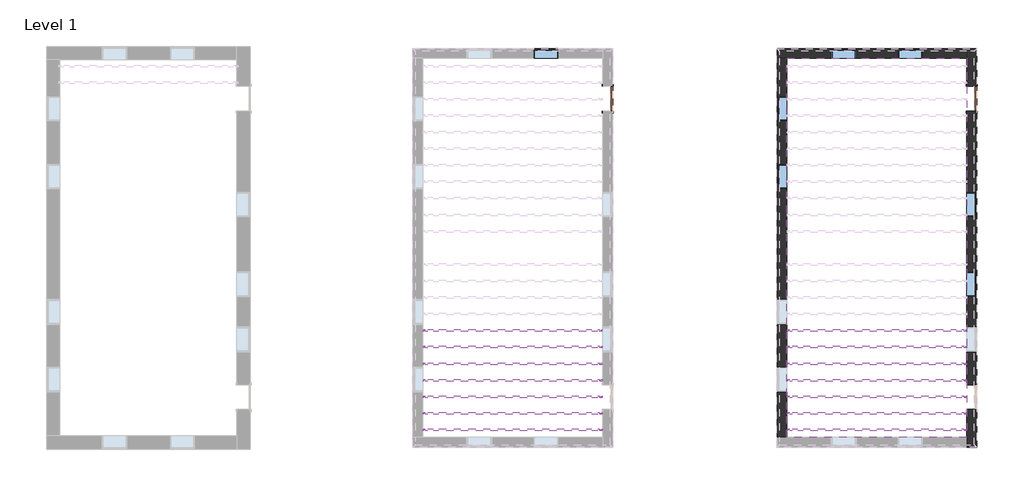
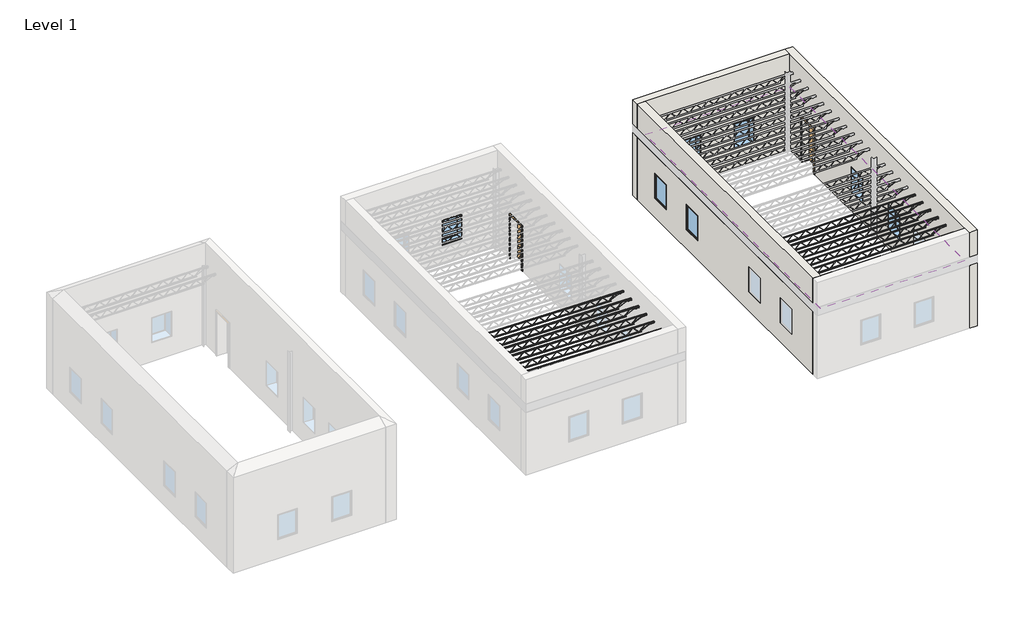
# One storey, part 2 of 3: 14 beams, 8 columns, 7 windows, 3 walls, 2 doors, 1 covering.
"""IFC4 building model written with IfcOpenShell, lengths in millimetres."""

from ifc_helpers import new_model, si_unit, point, frame, frame_2d, origin, origin_with_axes, place, context, project, spatial, polyline, circle_curve, trimmed, segment, composite_curve, outline, extrude, faceted_brep, transform, mapped, element, save
from components import k_series_bar_joist_rod_web_12k1_aec08bc9, k_series_bar_joist_rod_web_12k1_dd27f140, door_5f36cde9, window_a227ee85, window_0fe20cff

model = new_model("IFC4")

# Units and contexts
model_context = context("Model", 3, world=origin())
ifc_project = project(units=[si_unit("LENGTHUNIT", "METRE", prefix="MILLI")], contexts=[model_context])

# Site, building, storey
site = spatial("IfcSite", under=ifc_project)
building = spatial("IfcBuilding", under=site)
storey = spatial("IfcBuildingStorey", under=building, Name="Level 1", Elevation=0.0)

# Beams
placement = place(None, origin())
k_series_bar_joist_rod_web_12k1_shape = k_series_bar_joist_rod_web_12k1_aec08bc9(model_context)
element("IfcBeam", 1, ObjectType="K-Series Bar Joist-Rod Web : 12K1", at=placement, inside=storey, context=model_context, shape_type="MappedRepresentation", body=[
    mapped(k_series_bar_joist_rod_web_12k1_shape, transform((28873.0055911, -3709.2648477, 3764.3), x_axis=(1.0, 0.0, 0.0), y_axis=(0.0, 1.0, 0.0), z_axis=(0.0, 0.0, 1.0))),
])
element("IfcBeam", 2, ObjectType="K-Series Bar Joist-Rod Web : 12K1", at=placement, inside=storey, context=model_context, shape_type="MappedRepresentation", body=[
    mapped(k_series_bar_joist_rod_web_12k1_shape, transform((28873.0055911, -3099.6648477, 3764.3), x_axis=(1.0, 0.0, 0.0), y_axis=(0.0, 1.0, 0.0), z_axis=(0.0, 0.0, 1.0))),
])
element("IfcBeam", 3, ObjectType="K-Series Bar Joist-Rod Web : 12K1", at=placement, inside=storey, context=model_context, shape_type="MappedRepresentation", body=[
    mapped(k_series_bar_joist_rod_web_12k1_shape, transform((28873.0055911, -2490.0648477, 3764.3), x_axis=(1.0, 0.0, 0.0), y_axis=(0.0, 1.0, 0.0), z_axis=(0.0, 0.0, 1.0))),
])
element("IfcBeam", 4, ObjectType="K-Series Bar Joist-Rod Web : 12K1", at=placement, inside=storey, context=model_context, shape_type="MappedRepresentation", body=[
    mapped(k_series_bar_joist_rod_web_12k1_shape, transform((28873.0055911, -1880.4648477, 3764.3), x_axis=(1.0, 0.0, 0.0), y_axis=(0.0, 1.0, 0.0), z_axis=(0.0, 0.0, 1.0))),
])
element("IfcBeam", 5, ObjectType="K-Series Bar Joist-Rod Web : 12K1", at=placement, inside=storey, context=model_context, shape_type="MappedRepresentation", body=[
    mapped(k_series_bar_joist_rod_web_12k1_shape, transform((28873.0055911, -1270.8648477, 3764.3), x_axis=(1.0, 0.0, 0.0), y_axis=(0.0, 1.0, 0.0), z_axis=(0.0, 0.0, 1.0))),
])
element("IfcBeam", 6, ObjectType="K-Series Bar Joist-Rod Web : 12K1", at=placement, inside=storey, context=model_context, shape_type="MappedRepresentation", body=[
    mapped(k_series_bar_joist_rod_web_12k1_shape, transform((28873.0055911, -661.2648477, 3764.3), x_axis=(1.0, 0.0, 0.0), y_axis=(0.0, 1.0, 0.0), z_axis=(0.0, 0.0, 1.0))),
])
element("IfcBeam", 7, ObjectType="K-Series Bar Joist-Rod Web : 12K1", at=placement, inside=storey, context=model_context, shape_type="MappedRepresentation", body=[
    mapped(k_series_bar_joist_rod_web_12k1_shape, transform((28873.0055911, -51.6648477, 3764.3), x_axis=(1.0, 0.0, 0.0), y_axis=(0.0, 1.0, 0.0), z_axis=(0.0, 0.0, 1.0))),
])
k_series_bar_joist_rod_web_12k1_2_shape = k_series_bar_joist_rod_web_12k1_dd27f140(model_context)
element("IfcBeam", 8, ObjectType="K-Series Bar Joist-Rod Web : 12K1", at=placement, inside=storey, context=model_context, shape_type="MappedRepresentation", body=[
    mapped(k_series_bar_joist_rod_web_12k1_2_shape, transform((15460.0559301, -3709.2648477, 3827.8172194), x_axis=(0.9998063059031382, 0.0, -0.019681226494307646), y_axis=(0.0, 1.0, 0.0), z_axis=(0.019681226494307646, 0.0, 0.9998063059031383))),
])
element("IfcBeam", 9, ObjectType="K-Series Bar Joist-Rod Web : 12K1", at=placement, inside=storey, context=model_context, shape_type="MappedRepresentation", body=[
    mapped(k_series_bar_joist_rod_web_12k1_2_shape, transform((15460.0559301, -3099.6648477, 3827.8172194), x_axis=(0.9998063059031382, 0.0, -0.019681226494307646), y_axis=(0.0, 1.0, 0.0), z_axis=(0.019681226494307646, 0.0, 0.9998063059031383))),
])
element("IfcBeam", 10, ObjectType="K-Series Bar Joist-Rod Web : 12K1", at=placement, inside=storey, context=model_context, shape_type="MappedRepresentation", body=[
    mapped(k_series_bar_joist_rod_web_12k1_2_shape, transform((15460.0559301, -2490.0648477, 3827.8172194), x_axis=(0.9998063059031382, 0.0, -0.019681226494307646), y_axis=(0.0, 1.0, 0.0), z_axis=(0.019681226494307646, 0.0, 0.9998063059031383))),
])
element("IfcBeam", 11, ObjectType="K-Series Bar Joist-Rod Web : 12K1", at=placement, inside=storey, context=model_context, shape_type="MappedRepresentation", body=[
    mapped(k_series_bar_joist_rod_web_12k1_2_shape, transform((15460.0559301, -1880.4648477, 3827.8172194), x_axis=(0.9998063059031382, 0.0, -0.019681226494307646), y_axis=(0.0, 1.0, 0.0), z_axis=(0.019681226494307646, 0.0, 0.9998063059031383))),
])
element("IfcBeam", 12, ObjectType="K-Series Bar Joist-Rod Web : 12K1", at=placement, inside=storey, context=model_context, shape_type="MappedRepresentation", body=[
    mapped(k_series_bar_joist_rod_web_12k1_2_shape, transform((15460.0559301, -1270.8648477, 3827.8172194), x_axis=(0.9998063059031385, 0.0, -0.019681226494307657), y_axis=(0.0, 1.0000000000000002, 0.0), z_axis=(0.01968122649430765, 0.0, 0.9998063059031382))),
])
element("IfcBeam", 13, ObjectType="K-Series Bar Joist-Rod Web : 12K1", at=placement, inside=storey, context=model_context, shape_type="MappedRepresentation", body=[
    mapped(k_series_bar_joist_rod_web_12k1_2_shape, transform((15460.0559301, -661.2648477, 3827.8172194), x_axis=(0.9998063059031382, 0.0, -0.019681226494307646), y_axis=(0.0, 1.0, 0.0), z_axis=(0.019681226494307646, 0.0, 0.9998063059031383))),
])
element("IfcBeam", 14, ObjectType="K-Series Bar Joist-Rod Web : 12K1", at=placement, inside=storey, context=model_context, shape_type="MappedRepresentation", body=[
    mapped(k_series_bar_joist_rod_web_12k1_2_shape, transform((15460.0559301, -51.6648477, 3827.8172194), x_axis=(0.9998063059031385, 0.0, -0.019681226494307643), y_axis=(0.0, 1.0000000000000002, 0.0), z_axis=(0.019681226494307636, 0.0, 0.9998063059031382))),
])

# Columns
element("IfcColumn", 15, ObjectType="W-Wide Flange-Column1 : W10X33 2", at=placement, inside=storey, context=model_context, shape_type="SweptSolid", body=[
    extrude(outline(composite_curve([segment(polyline([(18564.028638, -3785.9609414), (18575.0419192, -3785.9609414), (18575.0419192, -3865.8320352)]), True, "CONTINUOUS"), segment(trimmed(circle_curve(frame_2d((18592.603638, -3865.8320352)), 17.5617188), [point((18575.0419192, -3865.8320352))], [point((18592.603638, -3883.3937539))], True, "CARTESIAN"), True, "CONTINUOUS"), segment(polyline([(18592.603638, -3883.3937539), (18782.6075442, -3883.3937539)]), True, "CONTINUOUS"), segment(trimmed(circle_curve(frame_2d((18782.6075442, -3865.8320352)), 17.5617188), [point((18782.6075442, -3883.3937539))], [point((18800.169263, -3865.8320352))], True, "CARTESIAN"), True, "CONTINUOUS"), segment(polyline([(18800.169263, -3865.8320352), (18800.169263, -3785.9609414), (18811.1825442, -3785.9609414), (18811.1825442, -3988.1687539), (18800.169263, -3988.1687539), (18800.169263, -3908.2976602)]), True, "CONTINUOUS"), segment(trimmed(circle_curve(frame_2d((18782.6075442, -3908.2976602)), 17.5617188), [point((18800.169263, -3908.2976602))], [point((18782.6075442, -3890.7359414))], True, "CARTESIAN"), True, "CONTINUOUS"), segment(polyline([(18782.6075442, -3890.7359414), (18592.603638, -3890.7359414)]), True, "CONTINUOUS"), segment(trimmed(circle_curve(frame_2d((18592.603638, -3908.2976602)), 17.5617188), [point((18592.603638, -3890.7359414))], [point((18575.0419192, -3908.2976602))], True, "CARTESIAN"), True, "CONTINUOUS"), segment(polyline([(18575.0419192, -3908.2976602), (18575.0419192, -3988.1687539), (18564.028638, -3988.1687539), (18564.028638, -3785.9609414)]), True, "CONTINUOUS")], self_intersect=False)), origin_with_axes(), (0.0, 0.0, 1.0), 3853.2),
])
element("IfcColumn", 16, ObjectType="W-Wide Flange-Column1 : W10X33 2", at=placement, inside=storey, context=model_context, shape_type="SweptSolid", body=[
    extrude(outline(composite_curve([segment(polyline([(12112.428638, -3785.9609414), (12123.4419192, -3785.9609414), (12123.4419192, -3865.8320352)]), True, "CONTINUOUS"), segment(trimmed(circle_curve(frame_2d((12141.003638, -3865.8320352)), 17.5617188), [point((12123.4419192, -3865.8320352))], [point((12141.003638, -3883.3937539))], True, "CARTESIAN"), True, "CONTINUOUS"), segment(polyline([(12141.003638, -3883.3937539), (12331.0075442, -3883.3937539)]), True, "CONTINUOUS"), segment(trimmed(circle_curve(frame_2d((12331.0075442, -3865.8320352)), 17.5617188), [point((12331.0075442, -3883.3937539))], [point((12348.569263, -3865.8320352))], True, "CARTESIAN"), True, "CONTINUOUS"), segment(polyline([(12348.569263, -3865.8320352), (12348.569263, -3785.9609414), (12359.5825442, -3785.9609414), (12359.5825442, -3988.1687539), (12348.569263, -3988.1687539), (12348.569263, -3908.2976602)]), True, "CONTINUOUS"), segment(trimmed(circle_curve(frame_2d((12331.0075442, -3908.2976602)), 17.5617188), [point((12348.569263, -3908.2976602))], [point((12331.0075442, -3890.7359414))], True, "CARTESIAN"), True, "CONTINUOUS"), segment(polyline([(12331.0075442, -3890.7359414), (12141.003638, -3890.7359414)]), True, "CONTINUOUS"), segment(trimmed(circle_curve(frame_2d((12141.003638, -3908.2976602)), 17.5617188), [point((12141.003638, -3890.7359414))], [point((12123.4419192, -3908.2976602))], True, "CARTESIAN"), True, "CONTINUOUS"), segment(polyline([(12123.4419192, -3908.2976602), (12123.4419192, -3988.1687539), (12112.428638, -3988.1687539), (12112.428638, -3785.9609414)]), True, "CONTINUOUS")], self_intersect=False)), origin_with_axes(), (0.0, 0.0, 1.0), 3980.2),
])
element("IfcColumn", 17, ObjectType="W-Wide Flange-Column1 : W10X33 2", at=placement, inside=storey, context=model_context, shape_type="SweptSolid", body=[
    extrude(outline(composite_curve([segment(polyline([(31975.228638, -3785.9609414), (31986.2419192, -3785.9609414), (31986.2419192, -3865.8320352)]), True, "CONTINUOUS"), segment(trimmed(circle_curve(frame_2d((32003.803638, -3865.8320352)), 17.5617188), [point((31986.2419192, -3865.8320352))], [point((32003.803638, -3883.3937539))], True, "CARTESIAN"), True, "CONTINUOUS"), segment(polyline([(32003.803638, -3883.3937539), (32193.8075442, -3883.3937539)]), True, "CONTINUOUS"), segment(trimmed(circle_curve(frame_2d((32193.8075442, -3865.8320352)), 17.5617188), [point((32193.8075442, -3883.3937539))], [point((32211.369263, -3865.8320352))], True, "CARTESIAN"), True, "CONTINUOUS"), segment(polyline([(32211.369263, -3865.8320352), (32211.369263, -3785.9609414), (32222.3825442, -3785.9609414), (32222.3825442, -3988.1687539), (32211.369263, -3988.1687539), (32211.369263, -3908.2976602)]), True, "CONTINUOUS"), segment(trimmed(circle_curve(frame_2d((32193.8075442, -3908.2976602)), 17.5617187), [point((32211.369263, -3908.2976602))], [point((32193.8075442, -3890.7359414))], True, "CARTESIAN"), True, "CONTINUOUS"), segment(polyline([(32193.8075442, -3890.7359414), (32003.803638, -3890.7359414)]), True, "CONTINUOUS"), segment(trimmed(circle_curve(frame_2d((32003.803638, -3908.2976602)), 17.5617188), [point((32003.803638, -3890.7359414))], [point((31986.2419192, -3908.2976602))], True, "CARTESIAN"), True, "CONTINUOUS"), segment(polyline([(31986.2419192, -3908.2976602), (31986.2419192, -3988.1687539), (31975.228638, -3988.1687539), (31975.228638, -3785.9609414)]), True, "CONTINUOUS")], self_intersect=False)), origin_with_axes(), (0.0, 0.0, 1.0), 3853.2),
])
element("IfcColumn", 18, ObjectType="W-Wide Flange-Column1 : W10X33 2", at=placement, inside=storey, context=model_context, shape_type="SweptSolid", body=[
    extrude(outline(composite_curve([segment(polyline([(25523.628638, -3785.9609414), (25534.6419192, -3785.9609414), (25534.6419192, -3865.8320352)]), True, "CONTINUOUS"), segment(trimmed(circle_curve(frame_2d((25552.203638, -3865.8320352)), 17.5617188), [point((25534.6419192, -3865.8320352))], [point((25552.203638, -3883.3937539))], True, "CARTESIAN"), True, "CONTINUOUS"), segment(polyline([(25552.203638, -3883.3937539), (25742.2075442, -3883.3937539)]), True, "CONTINUOUS"), segment(trimmed(circle_curve(frame_2d((25742.2075442, -3865.8320352)), 17.5617188), [point((25742.2075442, -3883.3937539))], [point((25759.769263, -3865.8320352))], True, "CARTESIAN"), True, "CONTINUOUS"), segment(polyline([(25759.769263, -3865.8320352), (25759.769263, -3785.9609414), (25770.7825442, -3785.9609414), (25770.7825442, -3988.1687539), (25759.769263, -3988.1687539), (25759.769263, -3908.2976602)]), True, "CONTINUOUS"), segment(trimmed(circle_curve(frame_2d((25742.2075442, -3908.2976602)), 17.5617187), [point((25759.769263, -3908.2976602))], [point((25742.2075442, -3890.7359414))], True, "CARTESIAN"), True, "CONTINUOUS"), segment(polyline([(25742.2075442, -3890.7359414), (25552.203638, -3890.7359414)]), True, "CONTINUOUS"), segment(trimmed(circle_curve(frame_2d((25552.203638, -3908.2976602)), 17.5617188), [point((25552.203638, -3890.7359414))], [point((25534.6419192, -3908.2976602))], True, "CARTESIAN"), True, "CONTINUOUS"), segment(polyline([(25534.6419192, -3908.2976602), (25534.6419192, -3988.1687539), (25523.628638, -3988.1687539), (25523.628638, -3785.9609414)]), True, "CONTINUOUS")], self_intersect=False)), origin_with_axes(), (0.0, 0.0, 1.0), 3980.2),
])
element("IfcColumn", 19, ObjectType="W-Wide Flange-Column1 : W10X33 2", at=placement, inside=storey, context=model_context, shape_type="SweptSolid", body=[
    extrude(outline(composite_curve([segment(polyline([(5152.828638, -3785.9609414), (5163.8419192, -3785.9609414), (5163.8419192, -3865.8320352)]), True, "CONTINUOUS"), segment(trimmed(circle_curve(frame_2d((5181.403638, -3865.8320352)), 17.5617188), [point((5163.8419192, -3865.8320352))], [point((5181.403638, -3883.3937539))], True, "CARTESIAN"), True, "CONTINUOUS"), segment(polyline([(5181.403638, -3883.3937539), (5371.4075442, -3883.3937539)]), True, "CONTINUOUS"), segment(trimmed(circle_curve(frame_2d((5371.4075442, -3865.8320352)), 17.5617188), [point((5371.4075442, -3883.3937539))], [point((5388.969263, -3865.8320352))], True, "CARTESIAN"), True, "CONTINUOUS"), segment(polyline([(5388.969263, -3865.8320352), (5388.969263, -3785.9609414), (5399.9825442, -3785.9609414), (5399.9825442, -3988.1687539), (5388.969263, -3988.1687539), (5388.969263, -3908.2976602)]), True, "CONTINUOUS"), segment(trimmed(circle_curve(frame_2d((5371.4075442, -3908.2976602)), 17.5617187), [point((5388.969263, -3908.2976602))], [point((5371.4075442, -3890.7359414))], True, "CARTESIAN"), True, "CONTINUOUS"), segment(polyline([(5371.4075442, -3890.7359414), (5181.403638, -3890.7359414)]), True, "CONTINUOUS"), segment(trimmed(circle_curve(frame_2d((5181.403638, -3908.2976602)), 17.5617188), [point((5181.403638, -3890.7359414))], [point((5163.8419192, -3908.2976602))], True, "CARTESIAN"), True, "CONTINUOUS"), segment(polyline([(5163.8419192, -3908.2976602), (5163.8419192, -3988.1687539), (5152.828638, -3988.1687539), (5152.828638, -3785.9609414)]), True, "CONTINUOUS")], self_intersect=False)), origin_with_axes(), (0.0, 0.0, 1.0), 3853.2),
])
element("IfcColumn", 20, ObjectType="W-Wide Flange-Column1 : W10X33 2", at=placement, inside=storey, context=model_context, shape_type="SweptSolid", body=[
    extrude(outline(composite_curve([segment(polyline([(-1298.771362, 3097.4390586), (-1287.7580808, 3097.4390586), (-1287.7580808, 3017.5679648)]), True, "CONTINUOUS"), segment(trimmed(circle_curve(frame_2d((-1270.196362, 3017.5679648)), 17.5617187), [point((-1287.7580808, 3017.5679648))], [point((-1270.196362, 3000.0062461))], True, "CARTESIAN"), True, "CONTINUOUS"), segment(polyline([(-1270.196362, 3000.0062461), (-1080.1924558, 3000.0062461)]), True, "CONTINUOUS"), segment(trimmed(circle_curve(frame_2d((-1080.1924558, 3017.5679648)), 17.5617188), [point((-1080.1924558, 3000.0062461))], [point((-1062.630737, 3017.5679648))], True, "CARTESIAN"), True, "CONTINUOUS"), segment(polyline([(-1062.630737, 3017.5679648), (-1062.630737, 3097.4390586), (-1051.6174558, 3097.4390586), (-1051.6174558, 2895.2312461), (-1062.630737, 2895.2312461), (-1062.630737, 2975.1023398)]), True, "CONTINUOUS"), segment(trimmed(circle_curve(frame_2d((-1080.1924558, 2975.1023398)), 17.5617188), [point((-1062.630737, 2975.1023398))], [point((-1080.1924558, 2992.6640586))], True, "CARTESIAN"), True, "CONTINUOUS"), segment(polyline([(-1080.1924558, 2992.6640586), (-1270.196362, 2992.6640586)]), True, "CONTINUOUS"), segment(trimmed(circle_curve(frame_2d((-1270.196362, 2975.1023398)), 17.5617188), [point((-1270.196362, 2992.6640586))], [point((-1287.7580808, 2975.1023398))], True, "CARTESIAN"), True, "CONTINUOUS"), segment(polyline([(-1287.7580808, 2975.1023398), (-1287.7580808, 2895.2312461), (-1298.771362, 2895.2312461), (-1298.771362, 3097.4390586)]), True, "CONTINUOUS")], self_intersect=False)), origin_with_axes(), (0.0, 0.0, 1.0), 3980.2),
])
element("IfcColumn", 21, ObjectType="W-Wide Flange-Column1 : W10X33 2", at=placement, inside=storey, context=model_context, shape_type="SweptSolid", body=[
    extrude(outline(composite_curve([segment(polyline([(-1298.771362, -3785.9609414), (-1287.7580808, -3785.9609414), (-1287.7580808, -3865.8320352)]), True, "CONTINUOUS"), segment(trimmed(circle_curve(frame_2d((-1270.196362, -3865.8320352)), 17.5617187), [point((-1287.7580808, -3865.8320352))], [point((-1270.196362, -3883.3937539))], True, "CARTESIAN"), True, "CONTINUOUS"), segment(polyline([(-1270.196362, -3883.3937539), (-1080.1924558, -3883.3937539)]), True, "CONTINUOUS"), segment(trimmed(circle_curve(frame_2d((-1080.1924558, -3865.8320352)), 17.5617188), [point((-1080.1924558, -3883.3937539))], [point((-1062.630737, -3865.8320352))], True, "CARTESIAN"), True, "CONTINUOUS"), segment(polyline([(-1062.630737, -3865.8320352), (-1062.630737, -3785.9609414), (-1051.6174558, -3785.9609414), (-1051.6174558, -3988.1687539), (-1062.630737, -3988.1687539), (-1062.630737, -3908.2976602)]), True, "CONTINUOUS"), segment(trimmed(circle_curve(frame_2d((-1080.1924558, -3908.2976602)), 17.5617188), [point((-1062.630737, -3908.2976602))], [point((-1080.1924558, -3890.7359414))], True, "CARTESIAN"), True, "CONTINUOUS"), segment(polyline([(-1080.1924558, -3890.7359414), (-1270.196362, -3890.7359414)]), True, "CONTINUOUS"), segment(trimmed(circle_curve(frame_2d((-1270.196362, -3908.2976602)), 17.5617188), [point((-1270.196362, -3890.7359414))], [point((-1287.7580808, -3908.2976602))], True, "CARTESIAN"), True, "CONTINUOUS"), segment(polyline([(-1287.7580808, -3908.2976602), (-1287.7580808, -3988.1687539), (-1298.771362, -3988.1687539), (-1298.771362, -3785.9609414)]), True, "CONTINUOUS")], self_intersect=False)), origin_with_axes(), (0.0, 0.0, 1.0), 3980.2),
])
element("IfcColumn", 22, ObjectType="W-Wide Flange-Column1 : W10X33 2", at=placement, inside=storey, context=model_context, shape_type="SweptSolid", body=[
    extrude(outline(composite_curve([segment(polyline([(-1298.771362, 9980.8390586), (-1287.7580808, 9980.8390586), (-1287.7580808, 9900.9679648)]), True, "CONTINUOUS"), segment(trimmed(circle_curve(frame_2d((-1270.196362, 9900.9679648)), 17.5617187), [point((-1287.7580808, 9900.9679648))], [point((-1270.196362, 9883.4062461))], True, "CARTESIAN"), True, "CONTINUOUS"), segment(polyline([(-1270.196362, 9883.4062461), (-1080.1924558, 9883.4062461)]), True, "CONTINUOUS"), segment(trimmed(circle_curve(frame_2d((-1080.1924558, 9900.9679648)), 17.5617188), [point((-1080.1924558, 9883.4062461))], [point((-1062.630737, 9900.9679648))], True, "CARTESIAN"), True, "CONTINUOUS"), segment(polyline([(-1062.630737, 9900.9679648), (-1062.630737, 9980.8390586), (-1051.6174558, 9980.8390586), (-1051.6174558, 9778.6312461), (-1062.630737, 9778.6312461), (-1062.630737, 9858.5023398)]), True, "CONTINUOUS"), segment(trimmed(circle_curve(frame_2d((-1080.1924558, 9858.5023398)), 17.5617188), [point((-1062.630737, 9858.5023398))], [point((-1080.1924558, 9876.0640586))], True, "CARTESIAN"), True, "CONTINUOUS"), segment(polyline([(-1080.1924558, 9876.0640586), (-1270.196362, 9876.0640586)]), True, "CONTINUOUS"), segment(trimmed(circle_curve(frame_2d((-1270.196362, 9858.5023398)), 17.5617188), [point((-1270.196362, 9876.0640586))], [point((-1287.7580808, 9858.5023398))], True, "CARTESIAN"), True, "CONTINUOUS"), segment(polyline([(-1287.7580808, 9858.5023398), (-1287.7580808, 9778.6312461), (-1298.771362, 9778.6312461), (-1298.771362, 9980.8390586)]), True, "CONTINUOUS")], self_intersect=False)), origin_with_axes(), (0.0, 0.0, 1.0), 3980.2),
])

# Covering
element("IfcCovering", 23, ObjectType="2' x 2' ACT System", at=placement, inside=storey, context=model_context, shape_type="SweptSolid", body=[
    extrude(outline(polyline([(25558.3055911, 9981.3351523), (32187.7055911, 9981.3351523), (32187.7055911, -3988.6648477), (25558.3055911, -3988.6648477), (25558.3055911, 9981.3351523)])), frame((0.0, 0.0, 3048.0), z_axis=(0.0, 0.0, 1.0), x_axis=(1.0, 0.0, 0.0)), (0.0, 0.0, 1.0), 57.15),
])

# Doors
door_shape = door_5f36cde9(model_context)
element("IfcDoor", 24, ObjectType="Single-Flush : 36\" x 84\"", at=placement, inside=storey, context=model_context, shape_type="MappedRepresentation", body=[
    mapped(door_shape, transform((18957.4805911, 8498.6101523, 0.0), x_axis=(0.0, 1.0, 0.0), y_axis=(-1.0, 0.0, 0.0), z_axis=(0.0, 0.0, 1.0))),
])
element("IfcDoor", 25, ObjectType="Single-Flush : 36\" x 84\"", at=placement, inside=storey, context=model_context, shape_type="MappedRepresentation", body=[
    mapped(door_shape, transform((32368.6805911, 8498.6101523, 0.0), x_axis=(0.0, 1.0, 0.0), y_axis=(-1.0, 0.0, 0.0), z_axis=(0.0, 0.0, 1.0))),
])

# Walls
element("IfcWall", 26, ObjectType="LDC Exterior - Brick on CMU", at=placement, inside=storey, context=model_context, shape_type="Brep", body=[
    faceted_brep([(32549.6555911, 10343.2851523, 4650.0), (32549.6555911, -4350.6148477, 4650.0), (32549.6555911, -4350.6148477, 3454.4), (32549.6555911, 10343.2851523, 3454.4), (32549.6555911, -2963.1398477, 0.0), (32549.6555911, -2963.1398477, 2133.6), (32549.6555911, -2048.7398477, 2133.6), (32549.6555911, -2048.7398477, 0.0), (32549.6555911, 8041.4101523, 0.0), (32549.6555911, 8041.4101523, 2133.6), (32549.6555911, 8955.8101523, 2133.6), (32549.6555911, 8955.8101523, 0.0), (32549.6555911, 10343.2851523, 0.0), (32549.6555911, 10343.2851523, 3048.0), (32549.6555911, -4350.6148477, 3048.0), (32549.6555911, -4350.6148477, 0.0), (32549.6555911, 1202.4601523, 914.4), (32549.6555911, 1202.4601523, 2133.6), (32549.6555911, 2116.8601523, 2133.6), (32549.6555911, 2116.8601523, 914.4), (32549.6555911, -829.5398477, 914.4), (32549.6555911, -829.5398477, 2133.6), (32549.6555911, 84.8601523, 2133.6), (32549.6555911, 84.8601523, 914.4), (32549.6555911, 4139.3351523, 914.4), (32549.6555911, 4139.3351523, 2133.6), (32549.6555911, 5053.7351523, 2133.6), (32549.6555911, 5053.7351523, 914.4), (32187.7055911, -4350.6148477, 4650.0), (32187.7055911, -3988.6648477, 4650.0), (32187.7055911, 9981.3351523, 4650.0), (32187.7055911, 10343.2851523, 4650.0), (32187.7055911, 10343.2851523, 3454.4), (32187.7055911, 10254.3851523, 3454.4), (32187.7055911, 10254.3851523, 3048.0), (32187.7055911, 10343.2851523, 3048.0), (32187.7055911, 10343.2851523, 0.0), (32187.7055911, 9981.3351523, 0.0), (32187.7055911, 8955.8101523, 0.0), (32187.7055911, 8955.8101523, 2133.6), (32187.7055911, 8041.4101523, 2133.6), (32187.7055911, 8041.4101523, 0.0), (32187.7055911, -2048.7398477, 0.0), (32187.7055911, -2048.7398477, 2133.6), (32187.7055911, -2963.1398477, 2133.6), (32187.7055911, -2963.1398477, 0.0), (32187.7055911, -3988.6648477, 0.0), (32187.7055911, -4350.6148477, 0.0), (32187.7055911, -4350.6148477, 3048.0), (32187.7055911, -4261.7148477, 3048.0), (32187.7055911, -4261.7148477, 3454.4), (32187.7055911, -4350.6148477, 3454.4), (32187.7055911, 1202.4601523, 2133.6), (32187.7055911, 1202.4601523, 914.4), (32187.7055911, 2116.8601523, 914.4), (32187.7055911, 2116.8601523, 2133.6), (32187.7055911, -829.5398477, 2133.6), (32187.7055911, -829.5398477, 914.4), (32187.7055911, 84.8601523, 914.4), (32187.7055911, 84.8601523, 2133.6), (32187.7055911, 4139.3351523, 2133.6), (32187.7055911, 4139.3351523, 914.4), (32187.7055911, 5053.7351523, 914.4), (32187.7055911, 5053.7351523, 2133.6), (32460.7555911, -4261.7148477, 3454.4), (32460.7555911, 10254.3851523, 3454.4), (32460.7555911, -4261.7148477, 3048.0), (32460.7555911, 10254.3851523, 3048.0)], [[[0, 1, 2, 3]], [[4, 5, 6, 7, 8, 9, 10, 11, 12, 13, 14, 15], [16, 17, 18, 19], [20, 21, 22, 23], [24, 25, 26, 27]], [[28, 29, 30, 31, 32, 33, 34, 35, 36, 37, 38, 39, 40, 41, 42, 43, 44, 45, 46, 47, 48, 49, 50, 51], [52, 53, 54, 55], [56, 57, 58, 59], [60, 61, 62, 63]], [[36, 12, 11, 38, 37]], [[15, 47, 46, 45, 4]], [[7, 42, 41, 8]], [[1, 0, 31, 30, 29, 28]], [[12, 36, 35, 13]], [[31, 0, 3, 32]], [[1, 28, 51, 2]], [[47, 15, 14, 48]], [[5, 4, 45, 44]], [[6, 5, 44, 43]], [[7, 6, 43, 42]], [[39, 38, 11, 10]], [[40, 39, 10, 9]], [[41, 40, 9, 8]], [[53, 52, 17, 16]], [[54, 53, 16, 19]], [[55, 54, 19, 18]], [[52, 55, 18, 17]], [[57, 56, 21, 20]], [[58, 57, 20, 23]], [[59, 58, 23, 22]], [[56, 59, 22, 21]], [[61, 60, 25, 24]], [[62, 61, 24, 27]], [[63, 62, 27, 26]], [[60, 63, 26, 25]], [[64, 65, 33, 32, 3, 2, 51, 50]], [[66, 64, 50, 49]], [[67, 66, 49, 48, 14, 13, 35, 34]], [[65, 64, 66, 67]], [[65, 67, 34, 33]]]),
])
element("IfcWall", 27, ObjectType="LDC Exterior - Brick on CMU", at=placement, inside=storey, context=model_context, shape_type="Brep", body=[
    faceted_brep([(32187.7055911, 10343.2851523, 0.0), (25196.3555911, 10343.2851523, 0.0), (25196.3555911, 10343.2851523, 3048.0), (32187.7055911, 10343.2851523, 3048.0), (29641.3555911, 10343.2851523, 2133.6), (29641.3555911, 10343.2851523, 914.4), (30555.7555911, 10343.2851523, 914.4), (30555.7555911, 10343.2851523, 2133.6), (27190.2555911, 10343.2851523, 2133.6), (27190.2555911, 10343.2851523, 914.4), (28104.6555911, 10343.2851523, 914.4), (28104.6555911, 10343.2851523, 2133.6), (25196.3555911, 10343.2851523, 4650.0), (32187.7055911, 10343.2851523, 4650.0), (32187.7055911, 10343.2851523, 3454.4), (25196.3555911, 10343.2851523, 3454.4), (25196.3555911, 9981.3351523, 0.0), (25558.3055911, 9981.3351523, 0.0), (32187.7055911, 9981.3351523, 0.0), (32187.7055911, 9981.3351523, 4650.0), (25558.3055911, 9981.3351523, 4650.0), (25196.3555911, 9981.3351523, 4650.0), (25196.3555911, 9981.3351523, 3454.4), (25285.2555911, 9981.3351523, 3454.4), (25285.2555911, 9981.3351523, 3048.0), (25196.3555911, 9981.3351523, 3048.0), (29641.3555911, 9981.3351523, 914.4), (29641.3555911, 9981.3351523, 2133.6), (30555.7555911, 9981.3351523, 2133.6), (30555.7555911, 9981.3351523, 914.4), (27190.2555911, 9981.3351523, 914.4), (27190.2555911, 9981.3351523, 2133.6), (28104.6555911, 9981.3351523, 2133.6), (28104.6555911, 9981.3351523, 914.4), (32187.7055911, 10254.3851523, 3048.0), (32187.7055911, 10254.3851523, 3454.4), (25285.2555911, 10254.3851523, 3454.4), (25285.2555911, 10254.3851523, 3048.0)], [[[0, 1, 2, 3], [4, 5, 6, 7], [8, 9, 10, 11]], [[12, 13, 14, 15]], [[16, 17, 18, 19, 20, 21, 22, 23, 24, 25], [26, 27, 28, 29], [30, 31, 32, 33]], [[1, 0, 18, 17, 16]], [[13, 12, 21, 20, 19]], [[1, 16, 25, 2]], [[21, 12, 15, 22]], [[13, 19, 18, 0, 3, 34, 35, 14]], [[5, 4, 27, 26]], [[6, 5, 26, 29]], [[7, 6, 29, 28]], [[4, 7, 28, 27]], [[9, 8, 31, 30]], [[10, 9, 30, 33]], [[11, 10, 33, 32]], [[8, 11, 32, 31]], [[35, 36, 23, 22, 15, 14]], [[24, 37, 34, 3, 2, 25]], [[37, 36, 35, 34]], [[36, 37, 24, 23]]]),
])
element("IfcWall", 28, ObjectType="LDC Exterior - Brick on CMU", at=placement, inside=storey, context=model_context, shape_type="Brep", body=[
    faceted_brep([(25558.3055911, -3988.6648477, 0.0), (25558.3055911, 9981.3351523, 0.0), (25558.3055911, 9981.3351523, 4650.0), (25558.3055911, -3988.6648477, 4650.0), (25558.3055911, 1095.5684857, 2133.6), (25558.3055911, 1095.5684857, 914.4), (25558.3055911, 181.1684857, 914.4), (25558.3055911, 181.1684857, 2133.6), (25558.3055911, 6084.551819, 2133.6), (25558.3055911, 6084.551819, 914.4), (25558.3055911, 5170.151819, 914.4), (25558.3055911, 5170.151819, 2133.6), (25558.3055911, 8579.0434857, 2133.6), (25558.3055911, 8579.0434857, 914.4), (25558.3055911, 7664.6434857, 914.4), (25558.3055911, 7664.6434857, 2133.6), (25558.3055911, -1398.923181, 2133.6), (25558.3055911, -1398.923181, 914.4), (25558.3055911, -2313.323181, 914.4), (25558.3055911, -2313.323181, 2133.6), (25196.3555911, 9981.3351523, 0.0), (25196.3555911, -3988.6648477, 0.0), (25196.3555911, -3988.6648477, 3048.0), (25196.3555911, 9981.3351523, 3048.0), (25196.3555911, 1095.5684857, 914.4), (25196.3555911, 1095.5684857, 2133.6), (25196.3555911, 181.1684857, 2133.6), (25196.3555911, 181.1684857, 914.4), (25196.3555911, 6084.551819, 914.4), (25196.3555911, 6084.551819, 2133.6), (25196.3555911, 5170.151819, 2133.6), (25196.3555911, 5170.151819, 914.4), (25196.3555911, 8579.0434857, 914.4), (25196.3555911, 8579.0434857, 2133.6), (25196.3555911, 7664.6434857, 2133.6), (25196.3555911, 7664.6434857, 914.4), (25196.3555911, -1398.923181, 914.4), (25196.3555911, -1398.923181, 2133.6), (25196.3555911, -2313.323181, 2133.6), (25196.3555911, -2313.323181, 914.4), (25196.3555911, -3988.6648477, 4650.0), (25196.3555911, 9981.3351523, 4650.0), (25196.3555911, 9981.3351523, 3454.4), (25196.3555911, -3988.6648477, 3454.4), (25285.2555911, 9981.3351523, 3048.0), (25285.2555911, 9981.3351523, 3454.4), (25285.2555911, -3988.6648477, 3454.4), (25285.2555911, -3988.6648477, 3048.0)], [[[0, 1, 2, 3], [4, 5, 6, 7], [8, 9, 10, 11], [12, 13, 14, 15], [16, 17, 18, 19]], [[20, 21, 22, 23], [24, 25, 26, 27], [28, 29, 30, 31], [32, 33, 34, 35], [36, 37, 38, 39]], [[40, 41, 42, 43]], [[1, 0, 21, 20]], [[3, 2, 41, 40]], [[2, 1, 20, 23, 44, 45, 42, 41]], [[0, 3, 40, 43, 46, 47, 22, 21]], [[5, 4, 25, 24]], [[6, 5, 24, 27]], [[7, 6, 27, 26]], [[4, 7, 26, 25]], [[9, 8, 29, 28]], [[10, 9, 28, 31]], [[11, 10, 31, 30]], [[8, 11, 30, 29]], [[13, 12, 33, 32]], [[14, 13, 32, 35]], [[15, 14, 35, 34]], [[12, 15, 34, 33]], [[17, 16, 37, 36]], [[18, 17, 36, 39]], [[19, 18, 39, 38]], [[16, 19, 38, 37]], [[47, 44, 23, 22]], [[45, 46, 43, 42]], [[46, 45, 44, 47]]]),
])

# Windows
window_shape = window_a227ee85(model_context)
element("IfcWindow", 29, ObjectType="Fixed : 36\" x 48\"", at=placement, inside=storey, context=model_context, shape_type="MappedRepresentation", body=[
    mapped(window_shape, transform((25377.3305911, 8159.9434857, 0.0), x_axis=(0.0, 1.0, 0.0), y_axis=(-1.0, 0.0, 0.0), z_axis=(0.0, 0.0, 1.0))),
])
element("IfcWindow", 30, ObjectType="Fixed : 36\" x 48\"", at=placement, inside=storey, context=model_context, shape_type="MappedRepresentation", body=[
    mapped(window_shape, transform((25377.3305911, 5665.451819, 0.0), x_axis=(0.0, 1.0, 0.0), y_axis=(-1.0, 0.0, 0.0), z_axis=(0.0, 0.0, 1.0))),
])
element("IfcWindow", 31, ObjectType="Fixed : 36\" x 48\"", at=placement, inside=storey, context=model_context, shape_type="MappedRepresentation", body=[
    mapped(window_shape, transform((32368.6805911, 4558.4351523, 0.0), x_axis=(0.0, -1.0, 0.0), y_axis=(1.0, 0.0, 0.0), z_axis=(0.0, 0.0, 1.0))),
])
element("IfcWindow", 32, ObjectType="Fixed : 36\" x 48\"", at=placement, inside=storey, context=model_context, shape_type="MappedRepresentation", body=[
    mapped(window_shape, transform((32368.6805911, 1621.5601523, 0.0), x_axis=(0.0, -1.0, 0.0), y_axis=(1.0, 0.0, 0.0), z_axis=(0.0, 0.0, 1.0))),
])
window_2_shape = window_0fe20cff(model_context)
element("IfcWindow", 33, ObjectType="Fixed : 36\" x 48\"", at=placement, inside=storey, context=model_context, shape_type="MappedRepresentation", body=[
    mapped(window_2_shape, transform((16649.2555911, 10162.3101523, 0.0), x_axis=(-1.0, 0.0, 0.0), y_axis=(0.0, -1.0, 0.0), z_axis=(0.0, 0.0, 1.0))),
])
element("IfcWindow", 34, ObjectType="Fixed : 36\" x 48\"", at=placement, inside=storey, context=model_context, shape_type="MappedRepresentation", body=[
    mapped(window_2_shape, transform((27609.3555911, 10162.3101523, 0.0), x_axis=(-1.0, 0.0, 0.0), y_axis=(0.0, -1.0, 0.0), z_axis=(0.0, 0.0, 1.0))),
])
element("IfcWindow", 35, ObjectType="Fixed : 36\" x 48\"", at=placement, inside=storey, context=model_context, shape_type="MappedRepresentation", body=[
    mapped(window_2_shape, transform((30060.4555911, 10162.3101523, 0.0), x_axis=(-1.0, 0.0, 0.0), y_axis=(0.0, -1.0, 0.0), z_axis=(0.0, 0.0, 1.0))),
])

save(model, "model.ifc")
